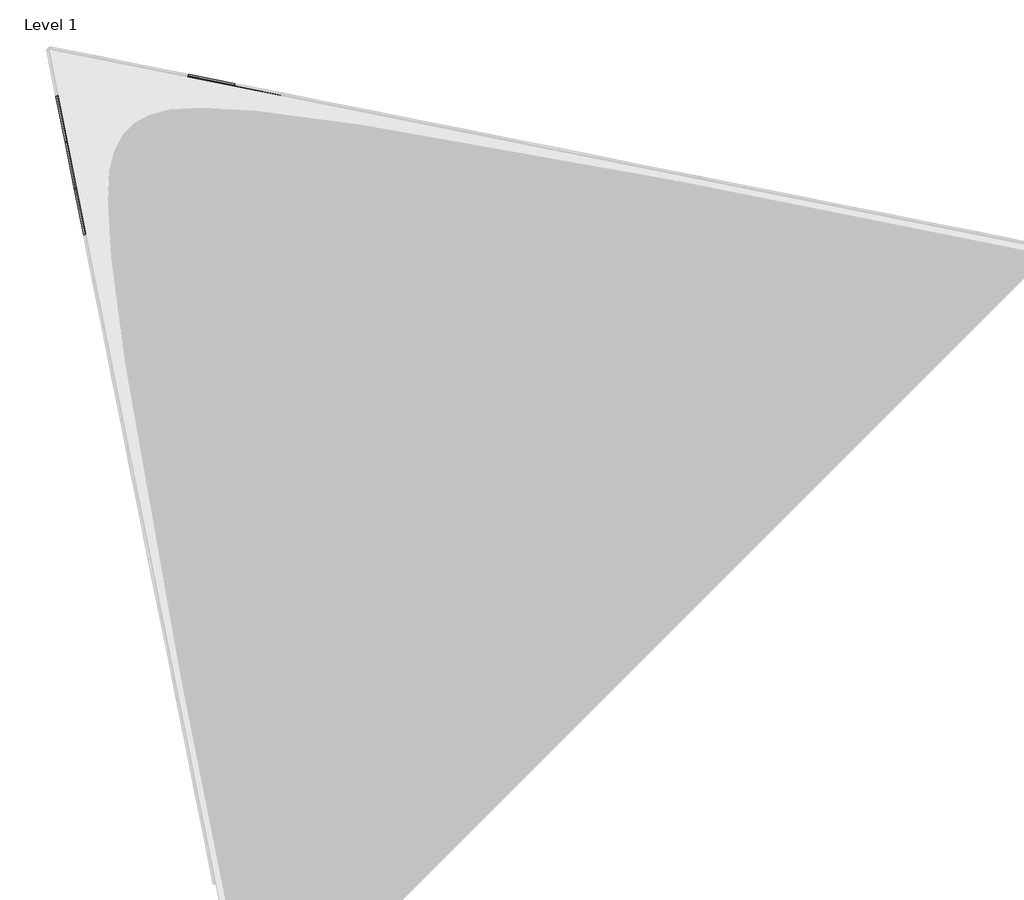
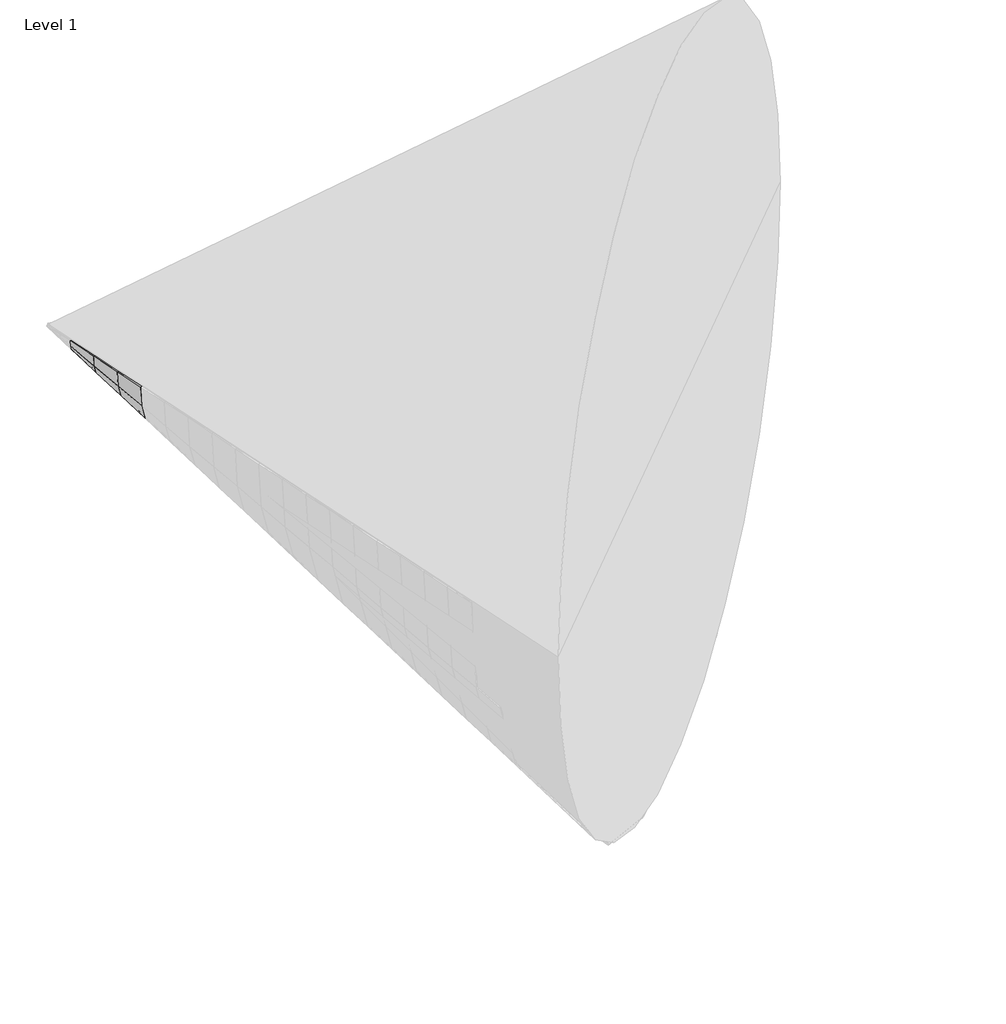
# One storey, part 2 of 3: 75 plates.
"""IFC4 building model written with IfcOpenShell, lengths in millimetres."""

from ifc_helpers import new_model, si_unit, origin, place, context, project, spatial, transform, mapped, element, save
from components import system_panel_glazed_09de8fbd, system_panel_glazed_be0217b8, system_panel_glazed_a08e28a9, system_panel_glazed_f45525ea, system_panel_glazed_80685a2c, system_panel_glazed_5c7ad1fa, system_panel_glazed_c752f533, system_panel_glazed_6e7ce93c, system_panel_glazed_3d0a4322, system_panel_glazed_3d57d9e6, system_panel_glazed_80a4cad8, system_panel_glazed_88a27ec3, system_panel_glazed_43d3b831, system_panel_glazed_c03609ab, system_panel_glazed_4fe2338e, system_panel_glazed_aa8377f3, system_panel_glazed_52904192, system_panel_glazed_15a0884d, system_panel_glazed_a404a3f6, system_panel_glazed_49170262, system_panel_glazed_4835debb

model = new_model("IFC4")

# Units and contexts
model_context = context("Model", 3, world=origin())
ifc_project = project(units=[si_unit("LENGTHUNIT", "METRE", prefix="MILLI")], contexts=[model_context])

# Site, building, storey
site = spatial("IfcSite", under=ifc_project)
building = spatial("IfcBuilding", under=site)
storey = spatial("IfcBuildingStorey", under=building, Name="Level 1", Elevation=0.0)

# Plates
placement = place(None, origin())
system_panel_glazed_shape = system_panel_glazed_09de8fbd(model_context)
element("IfcPlate", 1, ObjectType="System Panel : Glazed", at=placement, inside=storey, context=model_context, shape_type="MappedRepresentation", body=[
    mapped(system_panel_glazed_shape, transform((-10997.2682563, 9624.1864706, -69.4616047), x_axis=(0.11785113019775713, 0.11785113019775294, -0.98601329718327), y_axis=(0.9710241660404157, 0.1942048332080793, 0.13927150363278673), z_axis=(0.20790185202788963, -0.9738560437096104, -0.09154903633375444))),
])
element("IfcPlate", 2, ObjectType="System Panel : Glazed", at=placement, inside=storey, context=model_context, shape_type="MappedRepresentation", body=[
    mapped(system_panel_glazed_shape, transform((-10964.9817296, 9656.4729973, -200.6668581), x_axis=(0.34045882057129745, 0.34045882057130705, -0.8764562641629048), y_axis=(0.9062892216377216, 0.12946988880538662, 0.4023398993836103), z_axis=(0.25045486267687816, -0.9313030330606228, -0.26447499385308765))),
])
element("IfcPlate", 3, ObjectType="System Panel : Glazed", at=placement, inside=storey, context=model_context, shape_type="MappedRepresentation", body=[
    mapped(system_panel_glazed_shape, transform((-10903.996068, 9717.4586589, -309.5757939), x_axis=(0.5252377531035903, 0.525237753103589, -0.6695152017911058), y_axis=(0.7840121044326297, 0.007192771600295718, 0.6207038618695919), z_axis=(0.3308327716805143, -0.8509251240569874, -0.4080148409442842))),
])
element("IfcPlate", 4, ObjectType="System Panel : Glazed", at=placement, inside=storey, context=model_context, shape_type="MappedRepresentation", body=[
    mapped(system_panel_glazed_shape, transform((-10821.0874563, 9800.3672706, -384.0874192), x_axis=(0.6516569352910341, 0.6516569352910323, -0.38818356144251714), y_axis=(0.617779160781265, -0.15904017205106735, 0.7701007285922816), z_axis=(0.44010470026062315, -0.7416531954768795, -0.5062197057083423))),
])
element("IfcPlate", 5, ObjectType="System Panel : Glazed", at=placement, inside=storey, context=model_context, shape_type="MappedRepresentation", body=[
    mapped(system_panel_glazed_shape, transform((-10725.4679623, 9895.9867646, -415.9226647), x_axis=(0.7056697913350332, 0.7056697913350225, -0.06372041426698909), y_axis=(0.4260607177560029, -0.35075861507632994, 0.8339308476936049), z_axis=(0.5661293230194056, -0.6156285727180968, -0.5481779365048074))),
])
element("IfcPlate", 6, ObjectType="System Panel : Glazed", at=placement, inside=storey, context=model_context, shape_type="MappedRepresentation", body=[
    mapped(system_panel_glazed_shape, transform((-10627.7619742, 9993.6927526, -401.5442807), x_axis=(0.6812748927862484, 0.6812748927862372, 0.2678227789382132), y_axis=(0.23015882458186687, -0.5466605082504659, 0.8051019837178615), z_axis=(0.6949039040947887, -0.4868539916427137, -0.5292275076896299))),
])
system_panel_glazed_2_shape = system_panel_glazed_be0217b8(model_context)
element("IfcPlate", 7, ObjectType="System Panel : Glazed", at=placement, inside=storey, context=model_context, shape_type="MappedRepresentation", body=[
    mapped(system_panel_glazed_2_shape, transform((-10839.5255116, 8885.2862455, -138.9232094), x_axis=(0.11785113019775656, 0.11785113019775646, -0.9860132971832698), y_axis=(0.9710241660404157, 0.19420483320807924, 0.1392715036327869), z_axis=(0.20790185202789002, -0.9738560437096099, -0.09154903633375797))),
])
element("IfcPlate", 8, ObjectType="System Panel : Glazed", at=placement, inside=storey, context=model_context, shape_type="MappedRepresentation", body=[
    mapped(system_panel_glazed_2_shape, transform((-10774.9524582, 8949.8592989, -401.3337161), x_axis=(0.34045882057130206, 0.34045882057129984, -0.8764562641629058), y_axis=(0.9062892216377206, 0.12946988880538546, 0.40233989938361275), z_axis=(0.2504548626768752, -0.9313030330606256, -0.26447499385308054))),
])
element("IfcPlate", 9, ObjectType="System Panel : Glazed", at=placement, inside=storey, context=model_context, shape_type="MappedRepresentation", body=[
    mapped(system_panel_glazed_2_shape, transform((-10652.9811351, 9071.8306219, -619.1515877), x_axis=(0.5252377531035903, 0.5252377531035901, -0.669515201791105), y_axis=(0.7840121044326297, 0.007192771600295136, 0.620703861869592), z_axis=(0.33083277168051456, -0.8509251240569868, -0.4080148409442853))),
])
element("IfcPlate", 10, ObjectType="System Panel : Glazed", at=placement, inside=storey, context=model_context, shape_type="MappedRepresentation", body=[
    mapped(system_panel_glazed_2_shape, transform((-10487.1639116, 9237.6478454, -768.1748385), x_axis=(0.6516569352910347, 0.651656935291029, -0.38818356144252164), y_axis=(0.6177791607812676, -0.15904017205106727, 0.7701007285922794), z_axis=(0.44010470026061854, -0.7416531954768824, -0.5062197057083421))),
])
element("IfcPlate", 11, ObjectType="System Panel : Glazed", at=placement, inside=storey, context=model_context, shape_type="MappedRepresentation", body=[
    mapped(system_panel_glazed_2_shape, transform((-10295.9249236, 9428.8868334, -831.8453293), x_axis=(0.7056697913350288, 0.7056697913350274, -0.06372041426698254), y_axis=(0.42606071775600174, -0.35075861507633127, 0.8339308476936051), z_axis=(0.5661293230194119, -0.6156285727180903, -0.5481779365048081))),
])
element("IfcPlate", 12, ObjectType="System Panel : Glazed", at=placement, inside=storey, context=model_context, shape_type="MappedRepresentation", body=[
    mapped(system_panel_glazed_2_shape, transform((-10100.5129475, 9624.2988095, -803.0885614), x_axis=(0.6812748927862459, 0.6812748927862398, 0.26782277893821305), y_axis=(0.23015882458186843, -0.5466605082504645, 0.8051019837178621), z_axis=(0.6949039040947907, -0.48685399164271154, -0.5292275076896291))),
])
element("IfcPlate", 13, ObjectType="System Panel : Glazed", at=placement, inside=storey, context=model_context, shape_type="MappedRepresentation", body=[
    mapped(system_panel_glazed_2_shape, transform((-9922.6404252, 9802.1713318, -685.0997311), x_axis=(0.581182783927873, 0.5811827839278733, 0.5696078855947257), y_axis=(0.051840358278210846, -0.7249789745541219, 0.6868173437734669), z_axis=(0.8121201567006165, -0.3696377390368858, -0.4514740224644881))),
])
element("IfcPlate", 14, ObjectType="System Panel : Glazed", at=placement, inside=storey, context=model_context, shape_type="MappedRepresentation", body=[
    mapped(system_panel_glazed_2_shape, transform((-9782.0709702, 9942.7407868, -490.9887085), x_axis=(0.4165148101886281, 0.41651481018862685, 0.8081032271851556), y_axis=(-0.08908151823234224, -0.8659008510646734, 0.4922196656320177), z_axis=(0.9047540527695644, -0.27700384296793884, -0.3235567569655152))),
])
system_panel_glazed_3_shape = system_panel_glazed_a08e28a9(model_context)
element("IfcPlate", 15, ObjectType="System Panel : Glazed", at=placement, inside=storey, context=model_context, shape_type="MappedRepresentation", body=[
    mapped(system_panel_glazed_3_shape, transform((-10681.7827669, 8146.3860203, -208.3848142), x_axis=(0.11785113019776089, 0.1178511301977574, -0.986013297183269), y_axis=(0.9710241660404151, 0.19420483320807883, 0.13927150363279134), z_axis=(0.2079018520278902, -0.97385604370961, -0.09154903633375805))),
])
element("IfcPlate", 16, ObjectType="System Panel : Glazed", at=placement, inside=storey, context=model_context, shape_type="MappedRepresentation", body=[
    mapped(system_panel_glazed_3_shape, transform((-10584.9231868, 8243.2456004, -602.0005742), x_axis=(0.3404588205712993, 0.3404588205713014, -0.8764562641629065), y_axis=(0.9062892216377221, 0.12946988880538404, 0.40233989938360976), z_axis=(0.25045486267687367, -0.9313030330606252, -0.26447499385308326))),
])
element("IfcPlate", 17, ObjectType="System Panel : Glazed", at=placement, inside=storey, context=model_context, shape_type="MappedRepresentation", body=[
    mapped(system_panel_glazed_3_shape, transform((-10401.9662022, 8426.202585, -928.7273816), x_axis=(0.5252377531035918, 0.5252377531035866, -0.6695152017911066), y_axis=(0.7840121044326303, 0.007192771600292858, 0.620703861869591), z_axis=(0.3308327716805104, -0.850925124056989, -0.4080148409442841))),
])
element("IfcPlate", 18, ObjectType="System Panel : Glazed", at=placement, inside=storey, context=model_context, shape_type="MappedRepresentation", body=[
    mapped(system_panel_glazed_3_shape, transform((-10153.2403669, 8674.9284202, -1152.2622577), x_axis=(0.6516569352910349, 0.6516569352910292, -0.388183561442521), y_axis=(0.6177791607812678, -0.1590401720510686, 0.7701007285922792), z_axis=(0.44010470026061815, -0.7416531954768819, -0.5062197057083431))),
])
element("IfcPlate", 19, ObjectType="System Panel : Glazed", at=placement, inside=storey, context=model_context, shape_type="MappedRepresentation", body=[
    mapped(system_panel_glazed_3_shape, transform((-9866.3818849, 8961.7869023, -1247.767994), x_axis=(0.7056697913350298, 0.7056697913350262, -0.06372041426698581), y_axis=(0.42606071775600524, -0.35075861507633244, 0.8339308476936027), z_axis=(0.566129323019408, -0.6156285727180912, -0.5481779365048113))),
])
element("IfcPlate", 20, ObjectType="System Panel : Glazed", at=placement, inside=storey, context=model_context, shape_type="MappedRepresentation", body=[
    mapped(system_panel_glazed_3_shape, transform((-9573.2639208, 9254.9048664, -1204.6328421), x_axis=(0.6812748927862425, 0.6812748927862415, 0.26782277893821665), y_axis=(0.23015882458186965, -0.5466605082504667, 0.8051019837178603), z_axis=(0.6949039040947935, -0.4868539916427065, -0.5292275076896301))),
])
element("IfcPlate", 21, ObjectType="System Panel : Glazed", at=placement, inside=storey, context=model_context, shape_type="MappedRepresentation", body=[
    mapped(system_panel_glazed_3_shape, transform((-9306.4551373, 9521.7136499, -1027.6495967), x_axis=(0.5811827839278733, 0.5811827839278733, 0.5696078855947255), y_axis=(0.05184035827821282, -0.7249789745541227, 0.686817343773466), z_axis=(0.8121201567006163, -0.3696377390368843, -0.4514740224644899))),
])
element("IfcPlate", 22, ObjectType="System Panel : Glazed", at=placement, inside=storey, context=model_context, shape_type="MappedRepresentation", body=[
    mapped(system_panel_glazed_3_shape, transform((-9095.6009548, 9732.5678324, -736.4830627), x_axis=(0.4165148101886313, 0.416514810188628, 0.8081032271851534), y_axis=(-0.0890815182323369, -0.8659008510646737, 0.4922196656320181), z_axis=(0.9047540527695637, -0.2770038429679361, -0.3235567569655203))),
])
element("IfcPlate", 23, ObjectType="System Panel : Glazed", at=placement, inside=storey, context=model_context, shape_type="MappedRepresentation", body=[
    mapped(system_panel_glazed_3_shape, transform((-8964.1296158, 9864.0391714, -363.4850773), x_axis=(0.20556741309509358, 0.20556741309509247, 0.9568093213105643), y_axis=(-0.1769488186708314, -0.9537681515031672, 0.2429309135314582), z_axis=(0.9625129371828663, -0.21924495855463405, -0.15968874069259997))),
])
system_panel_glazed_4_shape = system_panel_glazed_f45525ea(model_context)
element("IfcPlate", 24, ObjectType="System Panel : Glazed", at=placement, inside=storey, context=model_context, shape_type="MappedRepresentation", body=[
    mapped(system_panel_glazed_4_shape, transform((-9819.3168223, 8112.2089951, -1536.3496769), x_axis=(0.651656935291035, 0.6516569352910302, -0.3881835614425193), y_axis=(0.6177791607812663, -0.15904017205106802, 0.7701007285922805), z_axis=(0.4401047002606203, -0.7416531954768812, -0.5062197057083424))),
])
element("IfcPlate", 25, ObjectType="System Panel : Glazed", at=placement, inside=storey, context=model_context, shape_type="MappedRepresentation", body=[
    mapped(system_panel_glazed_4_shape, transform((-9436.8388463, 8494.6869711, -1663.6906587), x_axis=(0.7056697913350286, 0.7056697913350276, -0.06372041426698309), y_axis=(0.4260607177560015, -0.3507586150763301, 0.8339308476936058), z_axis=(0.5661293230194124, -0.6156285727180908, -0.5481779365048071))),
])
element("IfcPlate", 26, ObjectType="System Panel : Glazed", at=placement, inside=storey, context=model_context, shape_type="MappedRepresentation", body=[
    mapped(system_panel_glazed_4_shape, transform((-9046.0148941, 8885.5109232, -1606.1771229), x_axis=(0.6812748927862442, 0.6812748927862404, 0.2678227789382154), y_axis=(0.23015882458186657, -0.5466605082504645, 0.8051019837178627), z_axis=(0.6949039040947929, -0.4868539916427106, -0.5292275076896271))),
])
element("IfcPlate", 27, ObjectType="System Panel : Glazed", at=placement, inside=storey, context=model_context, shape_type="MappedRepresentation", body=[
    mapped(system_panel_glazed_4_shape, transform((-8690.2698495, 9241.2559679, -1370.1994623), x_axis=(0.5811827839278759, 0.5811827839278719, 0.5696078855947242), y_axis=(0.0518403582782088, -0.724978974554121, 0.686817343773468), z_axis=(0.8121201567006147, -0.3696377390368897, -0.4514740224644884))),
])
element("IfcPlate", 28, ObjectType="System Panel : Glazed", at=placement, inside=storey, context=model_context, shape_type="MappedRepresentation", body=[
    mapped(system_panel_glazed_4_shape, transform((-8409.1309394, 9522.3948779, -981.977417), x_axis=(0.4165148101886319, 0.4165148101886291, 0.8081032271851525), y_axis=(-0.08908151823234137, -0.8659008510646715, 0.492219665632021), z_axis=(0.9047540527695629, -0.27700384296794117, -0.32355675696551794))),
])
element("IfcPlate", 29, ObjectType="System Panel : Glazed", at=placement, inside=storey, context=model_context, shape_type="MappedRepresentation", body=[
    mapped(system_panel_glazed_4_shape, transform((-8233.8358207, 9697.6899966, -484.6467698), x_axis=(0.2055674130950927, 0.20556741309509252, 0.9568093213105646), y_axis=(-0.1769488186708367, -0.953768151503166, 0.2429309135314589), z_axis=(0.9625129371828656, -0.21924495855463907, -0.15968874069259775))),
])
system_panel_glazed_5_shape = system_panel_glazed_80685a2c(model_context)
element("IfcPlate", 30, ObjectType="System Panel : Glazed", at=placement, inside=storey, context=model_context, shape_type="MappedRepresentation", body=[
    mapped(system_panel_glazed_5_shape, transform((-9007.2958076, 8027.5870399, -2079.6133234), x_axis=(0.7056697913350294, 0.7056697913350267, -0.06372041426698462), y_axis=(0.4260607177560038, -0.35075861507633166, 0.833930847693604), z_axis=(0.5661293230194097, -0.6156285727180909, -0.5481779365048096))),
])
element("IfcPlate", 31, ObjectType="System Panel : Glazed", at=placement, inside=storey, context=model_context, shape_type="MappedRepresentation", body=[
    mapped(system_panel_glazed_5_shape, transform((-8518.7658674, 8516.1169801, -2007.7214036), x_axis=(0.681274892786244, 0.6812748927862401, 0.2678227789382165), y_axis=(0.23015882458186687, -0.546660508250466, 0.8051019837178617), z_axis=(0.694903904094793, -0.48685399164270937, -0.5292275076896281))),
])
element("IfcPlate", 32, ObjectType="System Panel : Glazed", at=placement, inside=storey, context=model_context, shape_type="MappedRepresentation", body=[
    mapped(system_panel_glazed_5_shape, transform((-8074.0845616, 8960.7982859, -1712.7493278), x_axis=(0.5811827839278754, 0.5811827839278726, 0.5696078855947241), y_axis=(0.051840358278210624, -0.7249789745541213, 0.6868173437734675), z_axis=(0.8121201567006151, -0.36963773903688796, -0.4514740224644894))),
])
system_panel_glazed_6_shape = system_panel_glazed_5c7ad1fa(model_context)
element("IfcPlate", 33, ObjectType="System Panel : Glazed", at=placement, inside=storey, context=model_context, shape_type="MappedRepresentation", body=[
    mapped(system_panel_glazed_6_shape, transform((-7464.267814, 7777.3290938, -2810.809965), x_axis=(0.681274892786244, 0.6812748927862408, 0.26782277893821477), y_axis=(0.23015882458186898, -0.5466605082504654, 0.8051019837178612), z_axis=(0.6949039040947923, -0.4868539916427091, -0.5292275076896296))),
])
system_panel_glazed_7_shape = system_panel_glazed_c752f533(model_context)
element("IfcPlate", 34, ObjectType="System Panel : Glazed", at=placement, inside=storey, context=model_context, shape_type="MappedRepresentation", body=[
    mapped(system_panel_glazed_7_shape, transform((-7718.6666916, 6626.2872464, -3327.3813174), x_axis=(0.7056697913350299, 0.705669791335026, -0.06372041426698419), y_axis=(0.42606071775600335, -0.3507586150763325, 0.8339308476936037), z_axis=(0.5661293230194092, -0.6156285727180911, -0.54817793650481))),
])
element("IfcPlate", 35, ObjectType="System Panel : Glazed", at=placement, inside=storey, context=model_context, shape_type="MappedRepresentation", body=[
    mapped(system_panel_glazed_7_shape, transform((-6937.0187873, 7407.9351506, -3212.3542457), x_axis=(0.6812748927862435, 0.6812748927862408, 0.26782277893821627), y_axis=(0.23015882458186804, -0.546660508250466, 0.805101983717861), z_axis=(0.6949039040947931, -0.4868539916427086, -0.529227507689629))),
])
system_panel_glazed_8_shape = system_panel_glazed_6e7ce93c(model_context)
element("IfcPlate", 36, ObjectType="System Panel : Glazed", at=placement, inside=storey, context=model_context, shape_type="MappedRepresentation", body=[
    mapped(system_panel_glazed_8_shape, transform((-7289.1236529, 6159.1873152, -3743.3039821), x_axis=(0.7056697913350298, 0.7056697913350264, -0.06372041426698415), y_axis=(0.42606071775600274, -0.3507586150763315, 0.8339308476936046), z_axis=(0.56612932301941, -0.6156285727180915, -0.5481779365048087))),
])
element("IfcPlate", 37, ObjectType="System Panel : Glazed", at=placement, inside=storey, context=model_context, shape_type="MappedRepresentation", body=[
    mapped(system_panel_glazed_8_shape, transform((-6409.7697606, 7038.5412075, -3613.8985264), x_axis=(0.681274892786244, 0.6812748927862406, 0.2678227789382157), y_axis=(0.23015882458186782, -0.5466605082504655, 0.8051019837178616), z_axis=(0.6949039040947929, -0.4868539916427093, -0.5292275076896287))),
])
element("IfcPlate", 38, ObjectType="System Panel : Glazed", at=placement, inside=storey, context=model_context, shape_type="MappedRepresentation", body=[
    mapped(system_panel_glazed_8_shape, transform((-5609.3434101, 7838.967558, -3082.9487901), x_axis=(0.5811827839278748, 0.5811827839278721, 0.5696078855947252), y_axis=(0.051840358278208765, -0.7249789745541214, 0.6868173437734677), z_axis=(0.8121201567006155, -0.3696377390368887, -0.4514740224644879))),
])
system_panel_glazed_9_shape = system_panel_glazed_3d0a4322(model_context)
element("IfcPlate", 39, ObjectType="System Panel : Glazed", at=placement, inside=storey, context=model_context, shape_type="MappedRepresentation", body=[
    mapped(system_panel_glazed_9_shape, transform((-7815.7755542, 4735.892444, -3840.8741923), x_axis=(0.6516569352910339, 0.6516569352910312, -0.3881835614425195), y_axis=(0.6177791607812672, -0.15904017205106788, 0.7701007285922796), z_axis=(0.44010470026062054, -0.7416531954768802, -0.5062197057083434))),
])
element("IfcPlate", 40, ObjectType="System Panel : Glazed", at=placement, inside=storey, context=model_context, shape_type="MappedRepresentation", body=[
    mapped(system_panel_glazed_9_shape, transform((-6859.5806142, 5692.087384, -4159.2266467), x_axis=(0.7056697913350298, 0.7056697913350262, -0.06372041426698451), y_axis=(0.42606071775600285, -0.35075861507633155, 0.8339308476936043), z_axis=(0.5661293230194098, -0.6156285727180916, -0.5481779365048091))),
])
element("IfcPlate", 41, ObjectType="System Panel : Glazed", at=placement, inside=storey, context=model_context, shape_type="MappedRepresentation", body=[
    mapped(system_panel_glazed_9_shape, transform((-5882.5207339, 6669.1472643, -4015.4428071), x_axis=(0.6812748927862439, 0.6812748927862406, 0.26782277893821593), y_axis=(0.2301588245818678, -0.5466605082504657, 0.8051019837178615), z_axis=(0.6949039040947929, -0.48685399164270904, -0.5292275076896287))),
])
element("IfcPlate", 42, ObjectType="System Panel : Glazed", at=placement, inside=storey, context=model_context, shape_type="MappedRepresentation", body=[
    mapped(system_panel_glazed_9_shape, transform((-4993.1581222, 7558.509876, -3425.4986556), x_axis=(0.5811827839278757, 0.5811827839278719, 0.5696078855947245), y_axis=(0.05184035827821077, -0.7249789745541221, 0.6868173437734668), z_axis=(0.8121201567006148, -0.3696377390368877, -0.45147402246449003))),
])
system_panel_glazed_10_shape = system_panel_glazed_3d57d9e6(model_context)
element("IfcPlate", 43, ObjectType="System Panel : Glazed", at=placement, inside=storey, context=model_context, shape_type="MappedRepresentation", body=[
    mapped(system_panel_glazed_10_shape, transform((-8917.0442079, 9911.1245793, -80.636127), x_axis=(0.04505713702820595, 0.04505713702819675, 0.9979677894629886), y_axis=(-0.19583995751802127, -0.9791997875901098, 0.05305173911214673), z_axis=(0.97960020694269, -0.1978323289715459, -0.03529595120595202))),
])
system_panel_glazed_11_shape = system_panel_glazed_80a4cad8(model_context)
element("IfcPlate", 44, ObjectType="System Panel : Glazed", at=placement, inside=storey, context=model_context, shape_type="MappedRepresentation", body=[
    mapped(system_panel_glazed_11_shape, transform((-7481.8520096, 4173.1730188, -4224.9616115), x_axis=(0.6516569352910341, 0.6516569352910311, -0.3881835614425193), y_axis=(0.6177791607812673, -0.15904017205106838, 0.7701007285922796), z_axis=(0.44010470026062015, -0.7416531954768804, -0.5062197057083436))),
])
element("IfcPlate", 45, ObjectType="System Panel : Glazed", at=placement, inside=storey, context=model_context, shape_type="MappedRepresentation", body=[
    mapped(system_panel_glazed_11_shape, transform((-6430.0375755, 5224.9874528, -4575.1493114), x_axis=(0.7056697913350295, 0.7056697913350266, -0.06372041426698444), y_axis=(0.42606071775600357, -0.3507586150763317, 0.833930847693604), z_axis=(0.5661293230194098, -0.615628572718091, -0.5481779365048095))),
])
element("IfcPlate", 46, ObjectType="System Panel : Glazed", at=placement, inside=storey, context=model_context, shape_type="MappedRepresentation", body=[
    mapped(system_panel_glazed_11_shape, transform((-5355.2717072, 6299.7533212, -4416.9870879), x_axis=(0.6812748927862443, 0.6812748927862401, 0.267822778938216), y_axis=(0.23015882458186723, -0.5466605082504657, 0.8051019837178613), z_axis=(0.6949039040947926, -0.4868539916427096, -0.5292275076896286))),
])
element("IfcPlate", 47, ObjectType="System Panel : Glazed", at=placement, inside=storey, context=model_context, shape_type="MappedRepresentation", body=[
    mapped(system_panel_glazed_11_shape, transform((-4376.9728344, 7278.052194, -3768.0485212), x_axis=(0.5811827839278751, 0.5811827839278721, 0.5696078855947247), y_axis=(0.05184035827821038, -0.7249789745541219, 0.686817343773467), z_axis=(0.8121201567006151, -0.3696377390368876, -0.4514740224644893))),
])
system_panel_glazed_12_shape = system_panel_glazed_88a27ec3(model_context)
element("IfcPlate", 48, ObjectType="System Panel : Glazed", at=placement, inside=storey, context=model_context, shape_type="MappedRepresentation", body=[
    mapped(system_panel_glazed_12_shape, transform((-6000.4945369, 4757.8875217, -4991.0719761), x_axis=(0.7056697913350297, 0.7056697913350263, -0.06372041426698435), y_axis=(0.42606071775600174, -0.3507586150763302, 0.8339308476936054), z_axis=(0.5661293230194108, -0.6156285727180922, -0.5481779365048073))),
])
element("IfcPlate", 49, ObjectType="System Panel : Glazed", at=placement, inside=storey, context=model_context, shape_type="MappedRepresentation", body=[
    mapped(system_panel_glazed_12_shape, transform((-4828.0226805, 5930.359378, -4818.5313686), x_axis=(0.681274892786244, 0.6812748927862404, 0.2678227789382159), y_axis=(0.23015882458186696, -0.5466605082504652, 0.805101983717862), z_axis=(0.694903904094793, -0.4868539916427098, -0.5292275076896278))),
])
element("IfcPlate", 50, ObjectType="System Panel : Glazed", at=placement, inside=storey, context=model_context, shape_type="MappedRepresentation", body=[
    mapped(system_panel_glazed_12_shape, transform((-3760.7875465, 6997.594512, -4110.5983868), x_axis=(0.5811827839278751, 0.5811827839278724, 0.5696078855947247), y_axis=(0.051840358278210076, -0.7249789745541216, 0.6868173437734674), z_axis=(0.8121201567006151, -0.36963773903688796, -0.4514740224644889))),
])
element("IfcPlate", 51, ObjectType="System Panel : Glazed", at=placement, inside=storey, context=model_context, shape_type="MappedRepresentation", body=[
    mapped(system_panel_glazed_12_shape, transform((-2917.3708164, 7841.0112421, -2945.9322509), x_axis=(0.4165148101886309, 0.41651481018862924, 0.8081032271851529), y_axis=(-0.08908151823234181, -0.8659008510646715, 0.492219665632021), z_axis=(0.9047540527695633, -0.27700384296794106, -0.32355675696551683))),
])
system_panel_glazed_13_shape = system_panel_glazed_43d3b831(model_context)
element("IfcPlate", 52, ObjectType="System Panel : Glazed", at=placement, inside=storey, context=model_context, shape_type="MappedRepresentation", body=[
    mapped(system_panel_glazed_13_shape, transform((-5570.9514982, 4290.7875905, -5406.9946408), x_axis=(0.7056697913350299, 0.7056697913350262, -0.0637204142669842), y_axis=(0.4260607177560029, -0.3507586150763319, 0.8339308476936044), z_axis=(0.5661293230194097, -0.6156285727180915, -0.5481779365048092))),
])
element("IfcPlate", 53, ObjectType="System Panel : Glazed", at=placement, inside=storey, context=model_context, shape_type="MappedRepresentation", body=[
    mapped(system_panel_glazed_13_shape, transform((-4300.7736538, 5560.9654349, -5220.0756493), x_axis=(0.6812748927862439, 0.6812748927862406, 0.26782277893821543), y_axis=(0.23015882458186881, -0.546660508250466, 0.805101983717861), z_axis=(0.6949039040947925, -0.48685399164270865, -0.5292275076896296))),
])
element("IfcPlate", 54, ObjectType="System Panel : Glazed", at=placement, inside=storey, context=model_context, shape_type="MappedRepresentation", body=[
    mapped(system_panel_glazed_13_shape, transform((-3144.6022586, 6717.1368301, -4453.1482523), x_axis=(0.5811827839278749, 0.5811827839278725, 0.5696078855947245), y_axis=(0.0518403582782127, -0.7249789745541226, 0.6868173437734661), z_axis=(0.8121201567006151, -0.3696377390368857, -0.451474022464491))),
])
element("IfcPlate", 55, ObjectType="System Panel : Glazed", at=placement, inside=storey, context=model_context, shape_type="MappedRepresentation", body=[
    mapped(system_panel_glazed_13_shape, transform((-2230.900801, 7630.8382876, -3191.4266051), x_axis=(0.4165148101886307, 0.4165148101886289, 0.8081032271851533), y_axis=(-0.0890815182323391, -0.8659008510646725, 0.4922196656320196), z_axis=(0.9047540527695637, -0.27700384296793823, -0.3235567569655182))),
])
system_panel_glazed_14_shape = system_panel_glazed_c03609ab(model_context)
element("IfcPlate", 56, ObjectType="System Panel : Glazed", at=placement, inside=storey, context=model_context, shape_type="MappedRepresentation", body=[
    mapped(system_panel_glazed_14_shape, transform((-3773.5246271, 5191.5714917, -5621.61993), x_axis=(0.681274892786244, 0.6812748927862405, 0.267822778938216), y_axis=(0.23015882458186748, -0.5466605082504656, 0.8051019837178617), z_axis=(0.694903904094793, -0.4868539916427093, -0.5292275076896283))),
])
element("IfcPlate", 57, ObjectType="System Panel : Glazed", at=placement, inside=storey, context=model_context, shape_type="MappedRepresentation", body=[
    mapped(system_panel_glazed_14_shape, transform((-2528.4169707, 6436.6791481, -4795.6981179), x_axis=(0.5811827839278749, 0.5811827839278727, 0.5696078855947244), y_axis=(0.05184035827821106, -0.7249789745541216, 0.6868173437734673), z_axis=(0.8121201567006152, -0.36963773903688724, -0.4514740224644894))),
])
element("IfcPlate", 58, ObjectType="System Panel : Glazed", at=placement, inside=storey, context=model_context, shape_type="MappedRepresentation", body=[
    mapped(system_panel_glazed_14_shape, transform((-1544.4307857, 7420.6653332, -3436.9209593), x_axis=(0.41651481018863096, 0.4165148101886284, 0.8081032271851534), y_axis=(-0.08908151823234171, -0.8659008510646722, 0.49221966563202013), z_axis=(0.9047540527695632, -0.2770038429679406, -0.3235567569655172))),
])
system_panel_glazed_15_shape = system_panel_glazed_4fe2338e(model_context)
element("IfcPlate", 59, ObjectType="System Panel : Glazed", at=placement, inside=storey, context=model_context, shape_type="MappedRepresentation", body=[
    mapped(system_panel_glazed_15_shape, transform((-3246.2756004, 4822.1775486, -6023.1642107), x_axis=(0.6812748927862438, 0.6812748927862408, 0.26782277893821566), y_axis=(0.23015882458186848, -0.5466605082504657, 0.8051019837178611), z_axis=(0.6949039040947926, -0.4868539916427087, -0.5292275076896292))),
])
element("IfcPlate", 60, ObjectType="System Panel : Glazed", at=placement, inside=storey, context=model_context, shape_type="MappedRepresentation", body=[
    mapped(system_panel_glazed_15_shape, transform((-1912.2316829, 6156.2214661, -5138.2479835), x_axis=(0.5811827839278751, 0.5811827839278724, 0.5696078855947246), y_axis=(0.051840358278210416, -0.7249789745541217, 0.6868173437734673), z_axis=(0.8121201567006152, -0.36963773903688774, -0.45147402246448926))),
])
element("IfcPlate", 61, ObjectType="System Panel : Glazed", at=placement, inside=storey, context=model_context, shape_type="MappedRepresentation", body=[
    mapped(system_panel_glazed_15_shape, transform((-857.9607703, 7210.4923787, -3682.4153136), x_axis=(0.416514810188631, 0.41651481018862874, 0.8081032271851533), y_axis=(-0.08908151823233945, -0.8659008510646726, 0.4922196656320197), z_axis=(0.9047540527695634, -0.2770038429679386, -0.3235567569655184))),
])
element("IfcPlate", 62, ObjectType="System Panel : Glazed", at=placement, inside=storey, context=model_context, shape_type="MappedRepresentation", body=[
    mapped(system_panel_glazed_15_shape, transform((-200.6040751, 7867.8490739, -1817.4253867), x_axis=(0.20556741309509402, 0.20556741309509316, 0.9568093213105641), y_axis=(-0.17694881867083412, -0.9537681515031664, 0.24293091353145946), z_axis=(0.9625129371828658, -0.21924495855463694, -0.15968874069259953))),
])
system_panel_glazed_16_shape = system_panel_glazed_aa8377f3(model_context)
element("IfcPlate", 63, ObjectType="System Panel : Glazed", at=placement, inside=storey, context=model_context, shape_type="MappedRepresentation", body=[
    mapped(system_panel_glazed_16_shape, transform((-2719.0265737, 4452.7836055, -6424.7084914), x_axis=(0.6812748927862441, 0.6812748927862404, 0.2678227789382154), y_axis=(0.2301588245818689, -0.5466605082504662, 0.805101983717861), z_axis=(0.6949039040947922, -0.48685399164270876, -0.5292275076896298))),
])
element("IfcPlate", 64, ObjectType="System Panel : Glazed", at=placement, inside=storey, context=model_context, shape_type="MappedRepresentation", body=[
    mapped(system_panel_glazed_16_shape, transform((-1296.046395, 5875.7637841, -5480.797849), x_axis=(0.5811827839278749, 0.5811827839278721, 0.5696078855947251), y_axis=(0.05184035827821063, -0.7249789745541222, 0.6868173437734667), z_axis=(0.8121201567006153, -0.3696377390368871, -0.4514740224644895))),
])
element("IfcPlate", 65, ObjectType="System Panel : Glazed", at=placement, inside=storey, context=model_context, shape_type="MappedRepresentation", body=[
    mapped(system_panel_glazed_16_shape, transform((-171.4907549, 7000.3194242, -3927.9096678), x_axis=(0.41651481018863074, 0.41651481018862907, 0.808103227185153), y_axis=(-0.08908151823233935, -0.8659008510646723, 0.4922196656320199), z_axis=(0.9047540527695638, -0.2770038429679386, -0.3235567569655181))),
])
system_panel_glazed_17_shape = system_panel_glazed_52904192(model_context)
element("IfcPlate", 66, ObjectType="System Panel : Glazed", at=placement, inside=storey, context=model_context, shape_type="MappedRepresentation", body=[
    mapped(system_panel_glazed_17_shape, transform((-3852.7793435, 2422.3878658, -7070.6852995), x_axis=(0.7056697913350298, 0.7056697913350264, -0.06372041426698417), y_axis=(0.42606071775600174, -0.3507586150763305, 0.8339308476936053), z_axis=(0.5661293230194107, -0.615628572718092, -0.5481779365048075))),
])
element("IfcPlate", 67, ObjectType="System Panel : Glazed", at=placement, inside=storey, context=model_context, shape_type="MappedRepresentation", body=[
    mapped(system_panel_glazed_17_shape, transform((-2191.777547, 4083.3896623, -6826.2527721), x_axis=(0.6812748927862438, 0.6812748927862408, 0.26782277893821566), y_axis=(0.23015882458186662, -0.5466605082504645, 0.8051019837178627), z_axis=(0.6949039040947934, -0.4868539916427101, -0.529227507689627))),
])
element("IfcPlate", 68, ObjectType="System Panel : Glazed", at=placement, inside=storey, context=model_context, shape_type="MappedRepresentation", body=[
    mapped(system_panel_glazed_17_shape, transform((-679.8611071, 5595.3061021, -5823.3477146), x_axis=(0.5811827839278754, 0.5811827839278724, 0.5696078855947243), y_axis=(0.05184035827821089, -0.7249789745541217, 0.6868173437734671), z_axis=(0.8121201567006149, -0.36963773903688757, -0.4514740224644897))),
])
system_panel_glazed_18_shape = system_panel_glazed_15a0884d(model_context)
element("IfcPlate", 69, ObjectType="System Panel : Glazed", at=placement, inside=storey, context=model_context, shape_type="MappedRepresentation", body=[
    mapped(system_panel_glazed_18_shape, transform((-1664.5285203, 3713.9957192, -7227.7970529), x_axis=(0.681274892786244, 0.6812748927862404, 0.267822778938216), y_axis=(0.2301588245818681, -0.5466605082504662, 0.8051019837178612), z_axis=(0.6949039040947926, -0.4868539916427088, -0.5292275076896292))),
])
element("IfcPlate", 70, ObjectType="System Panel : Glazed", at=placement, inside=storey, context=model_context, shape_type="MappedRepresentation", body=[
    mapped(system_panel_glazed_18_shape, transform((-63.6758193, 5314.8484202, -6165.8975801), x_axis=(0.581182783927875, 0.5811827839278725, 0.5696078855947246), y_axis=(0.051840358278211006, -0.7249789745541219, 0.6868173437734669), z_axis=(0.8121201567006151, -0.3696377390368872, -0.4514740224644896))),
])
system_panel_glazed_19_shape = system_panel_glazed_a404a3f6(model_context)
element("IfcPlate", 71, ObjectType="System Panel : Glazed", at=placement, inside=storey, context=model_context, shape_type="MappedRepresentation", body=[
    mapped(system_panel_glazed_19_shape, transform((-2993.6932661, 1488.1880034, -7902.5306288), x_axis=(0.7056697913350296, 0.7056697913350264, -0.06372041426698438), y_axis=(0.4260607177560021, -0.3507586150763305, 0.8339308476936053), z_axis=(0.5661293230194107, -0.6156285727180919, -0.5481779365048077))),
])
element("IfcPlate", 72, ObjectType="System Panel : Glazed", at=placement, inside=storey, context=model_context, shape_type="MappedRepresentation", body=[
    mapped(system_panel_glazed_19_shape, transform((-1137.2794936, 3344.601776, -7629.3413336), x_axis=(0.6812748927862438, 0.6812748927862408, 0.26782277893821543), y_axis=(0.23015882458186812, -0.5466605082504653, 0.8051019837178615), z_axis=(0.6949039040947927, -0.4868539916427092, -0.5292275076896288))),
])
system_panel_glazed_20_shape = system_panel_glazed_49170262(model_context)
element("IfcPlate", 73, ObjectType="System Panel : Glazed", at=placement, inside=storey, context=model_context, shape_type="MappedRepresentation", body=[
    mapped(system_panel_glazed_20_shape, transform((-2564.1502275, 1021.0880722, -8318.4532935), x_axis=(0.7056697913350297, 0.7056697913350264, -0.06372041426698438), y_axis=(0.4260607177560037, -0.3507586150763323, 0.8339308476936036), z_axis=(0.5661293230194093, -0.6156285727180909, -0.5481779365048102))),
])
element("IfcPlate", 74, ObjectType="System Panel : Glazed", at=placement, inside=storey, context=model_context, shape_type="MappedRepresentation", body=[
    mapped(system_panel_glazed_20_shape, transform((-610.0304668, 2975.2078329, -8030.8856143), x_axis=(0.6812748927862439, 0.6812748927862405, 0.26782277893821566), y_axis=(0.2301588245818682, -0.5466605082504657, 0.8051019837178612), z_axis=(0.6949039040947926, -0.48685399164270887, -0.5292275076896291))),
])
system_panel_glazed_21_shape = system_panel_glazed_4835debb(model_context)
element("IfcPlate", 75, ObjectType="System Panel : Glazed", at=placement, inside=storey, context=model_context, shape_type="MappedRepresentation", body=[
    mapped(system_panel_glazed_21_shape, transform((-82.7814401, 2605.8138897, -8432.429895), x_axis=(0.6812748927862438, 0.6812748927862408, 0.26782277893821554), y_axis=(0.23015882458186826, -0.5466605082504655, 0.8051019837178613), z_axis=(0.6949039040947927, -0.48685399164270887, -0.5292275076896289))),
])

save(model, "model.ifc")
